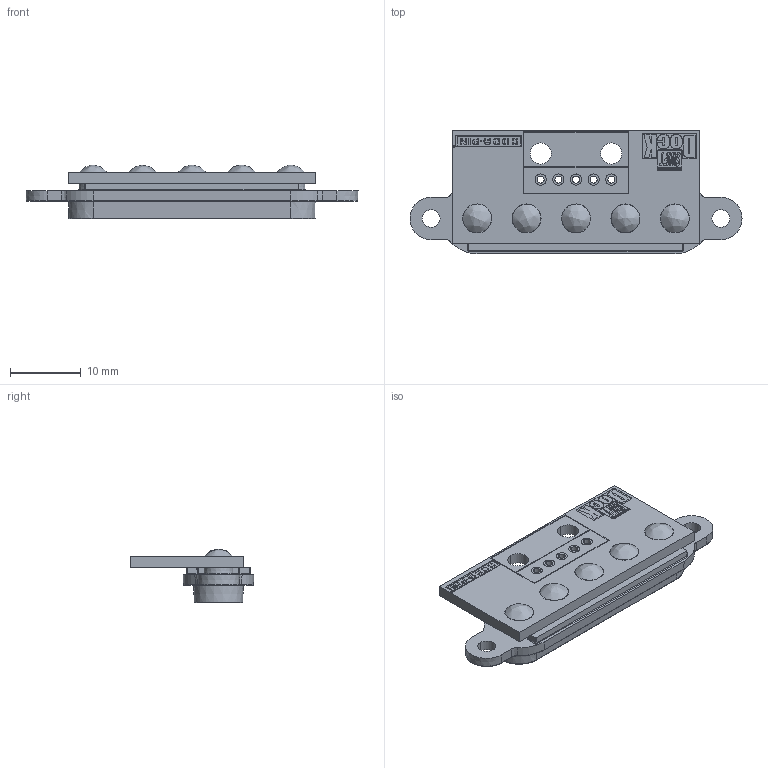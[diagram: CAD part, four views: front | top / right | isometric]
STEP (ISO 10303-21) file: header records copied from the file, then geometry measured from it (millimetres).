
FILE_DESCRIPTION (( 'STEP AP214' ), '1' );
FILE_NAME ('Swift-Dock-5P-L.STEP', '2021-08-06T16:16:23', ( '' ), ( '' ), 'SwSTEP 2.0', 'SolidWorks 2021', '' );
FILE_SCHEMA (( 'AUTOMOTIVE_DESIGN' ));
Length unit declared in the file: millimetre
Products named in the file (7): Swift-Dock-5P-L; land body_5 hole_2; PCB_5 way_2; solder spill_17; PCB_5 way_assy; Coda_IPP2S-A_contact land_13; SD5P_land Array_5way
Assembly tree (14 placements, depth 4):
  Swift-Dock-5P-L
    solder spill_17  x5
    SD5P_land Array_5way
      Coda_IPP2S-A_contact land_13  x5
      land body_5 hole_2
      PCB_5 way_assy
        PCB_5 way_2
Bounding box: 47 x 17.5 x 7.61 mm (x, y, z)
Volume: 2231.8 mm3; surface area: 3376.5 mm2
Topology: 12 solids, 12 shells, 761 faces, 1802 edges, 1137 vertices
Faces by surface type: plane 329, cylinder 227, cone 108, bspline 97
Entity records: 28696 total; most frequent: CARTESIAN_POINT 5940, ORIENTED_EDGE 3200, DIRECTION 3082, EDGE_CURVE 1600, AXIS2_PLACEMENT_3D 1051, VERTEX_POINT 1021, LINE 980, VECTOR 980
